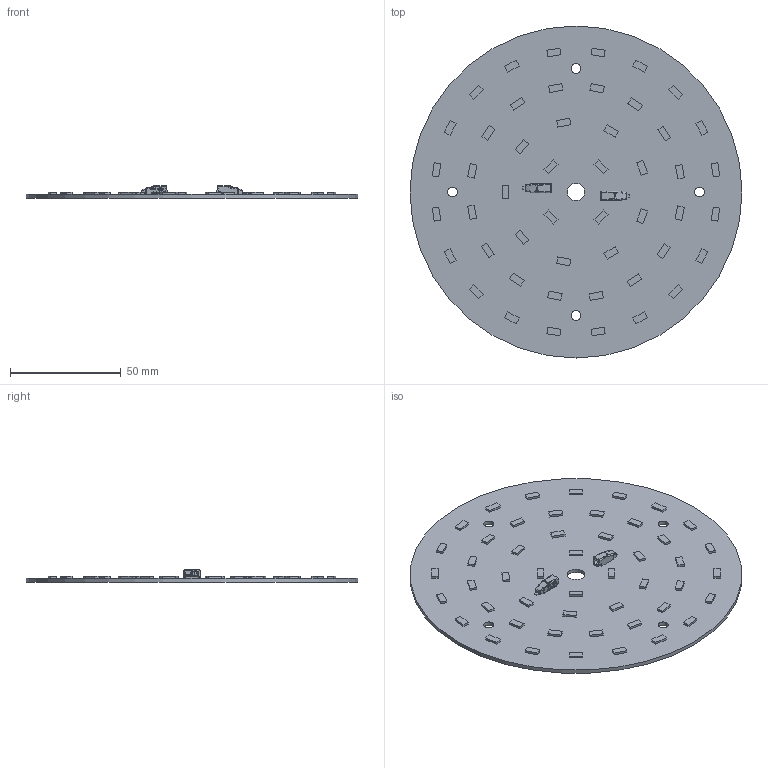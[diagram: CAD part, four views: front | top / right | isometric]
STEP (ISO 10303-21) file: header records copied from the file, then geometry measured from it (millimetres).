
FILE_DESCRIPTION(('ML49C1FH'),'2;1');
FILE_NAME('Z:\Mixdeal\Catalogo\Modelos 3D\STEP\ML49C1FH.stp','2015-06-26T15:23:26',('Nicolas Kretzig'),('MIXDEAL SA'),'Autodesk Inventor 2011','Autodesk Inventor 2011','');
FILE_SCHEMA(('AUTOMOTIVE_DESIGN { 1 0 10303 214 1 1 1 1 }'));
Length unit declared in the file: millimetre
Products named in the file (3): Placa ML49C1FH; ML49C1FH; 46-101-1001
Assembly tree (3 placements, depth 2):
  Placa ML49C1FH
    ML49C1FH
    46-101-1001  x2
Bounding box: 150 x 150 x 5.7 mm (x, y, z)
Volume: 31883.9 mm3; surface area: 37389.3 mm2
Topology: 3 solids, 5 shells, 901 faces, 2245 edges, 1493 vertices
Faces by surface type: plane 687, bspline 130, cylinder 74, torus 8, cone 2
Full cylindrical faces by diameter (mm): 0.6 x2, 4.5 x4, 8 x1, 150 x1
Entity records: 20120 total; most frequent: CARTESIAN_POINT 6102, ORIENTED_EDGE 2830, DIRECTION 2423, EDGE_CURVE 1415, VECTOR 1183, LINE 1183, VERTEX_POINT 945, EDGE_LOOP 688
